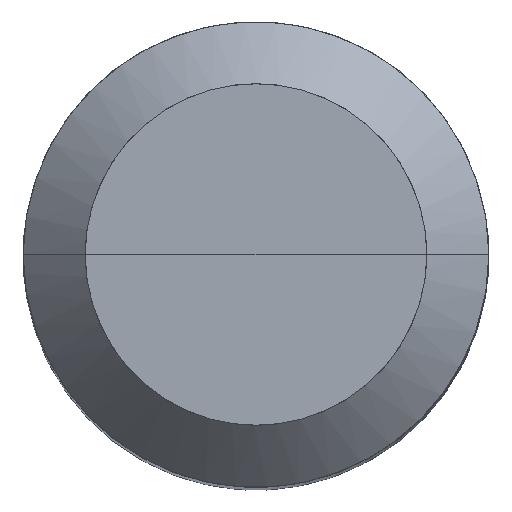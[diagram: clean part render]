
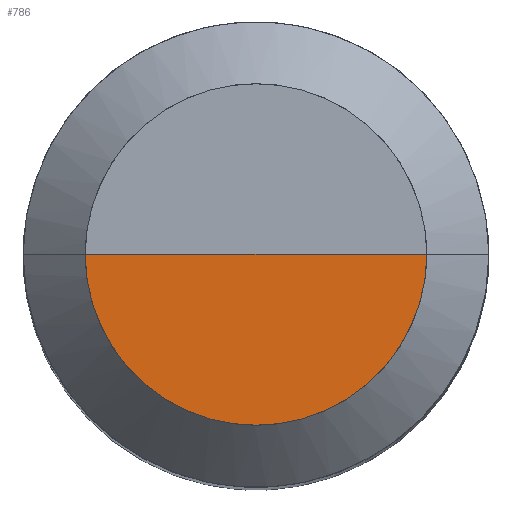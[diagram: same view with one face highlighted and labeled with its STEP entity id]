
A CAD part, top view. The second image highlights one B-rep face of the part: STEP entity #786.
In plain terms, the highlighted free-form (B-spline) face has degree [1, 2] with [2, 5] control points.
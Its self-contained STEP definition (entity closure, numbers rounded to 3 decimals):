
#431=CARTESIAN_POINT('',(2.2,0.0,21.402));
#435=CARTESIAN_POINT('',(-2.2,0.0,21.402));
#436=CARTESIAN_POINT('',(0.0,0.0,21.402));
#446=CARTESIAN_POINT('',(-2.2,-2.2,21.402));
#447=CARTESIAN_POINT('',(0.0,-2.2,21.402));
#448=CARTESIAN_POINT('',(2.2,-2.2,21.402));
#771=(
BOUNDED_SURFACE()
B_SPLINE_SURFACE(1,2,(
(#435,#446,#447,#448,#431),
(#436,#436,#436,#436,#436)
), .UNSPECIFIED.,.F.,.F.,.F.)
B_SPLINE_SURFACE_WITH_KNOTS((2,2),(3,2,3),(
0.0,1.0),(
0.0,0.5,1.0), .UNSPECIFIED.)
GEOMETRIC_REPRESENTATION_ITEM()
RATIONAL_B_SPLINE_SURFACE(((1.0,0.707,1.0,0.707,1.0),
(1.0,0.707,1.0,0.707,1.0)
))
REPRESENTATION_ITEM('')
SURFACE()
);
#772=(
BOUNDED_CURVE()
B_SPLINE_CURVE(2,(#431,#448,#447,#446,#435),.UNSPECIFIED.,.F.,.F.)
B_SPLINE_CURVE_WITH_KNOTS((3,2,3),
(0.0,0.5,1.0),.UNSPECIFIED.)
CURVE()
GEOMETRIC_REPRESENTATION_ITEM()
RATIONAL_B_SPLINE_CURVE((1.0,0.707,1.0,0.707,1.0))
REPRESENTATION_ITEM('')
);
#773=(
BOUNDED_CURVE()
B_SPLINE_CURVE(1,(#435,#436),.UNSPECIFIED.,.F.,.F.)
B_SPLINE_CURVE_WITH_KNOTS((2,2),
(0.0,1.0),.UNSPECIFIED.)
CURVE()
GEOMETRIC_REPRESENTATION_ITEM()
RATIONAL_B_SPLINE_CURVE((1.0,1.0))
REPRESENTATION_ITEM('')
);
#774=(
BOUNDED_CURVE()
B_SPLINE_CURVE(1,(#436,#431),.UNSPECIFIED.,.F.,.F.)
B_SPLINE_CURVE_WITH_KNOTS((2,2),
(0.0,1.0),.UNSPECIFIED.)
CURVE()
GEOMETRIC_REPRESENTATION_ITEM()
RATIONAL_B_SPLINE_CURVE((1.0,1.0))
REPRESENTATION_ITEM('')
);
#775=VERTEX_POINT('',#431);
#776=VERTEX_POINT('',#435);
#777=VERTEX_POINT('',#436);
#778=EDGE_CURVE('',#775,#776,#772,.T.);
#779=EDGE_CURVE('',#776,#777,#773,.T.);
#780=EDGE_CURVE('',#777,#775,#774,.T.);
#781=ORIENTED_EDGE('',*,*,#778,.T.);
#782=ORIENTED_EDGE('',*,*,#779,.T.);
#783=ORIENTED_EDGE('',*,*,#780,.T.);
#784=EDGE_LOOP('',(#781,#782,#783));
#785=FACE_OUTER_BOUND('',#784,.T.);
#786=ADVANCED_FACE('',(#785),#771,.T.);
